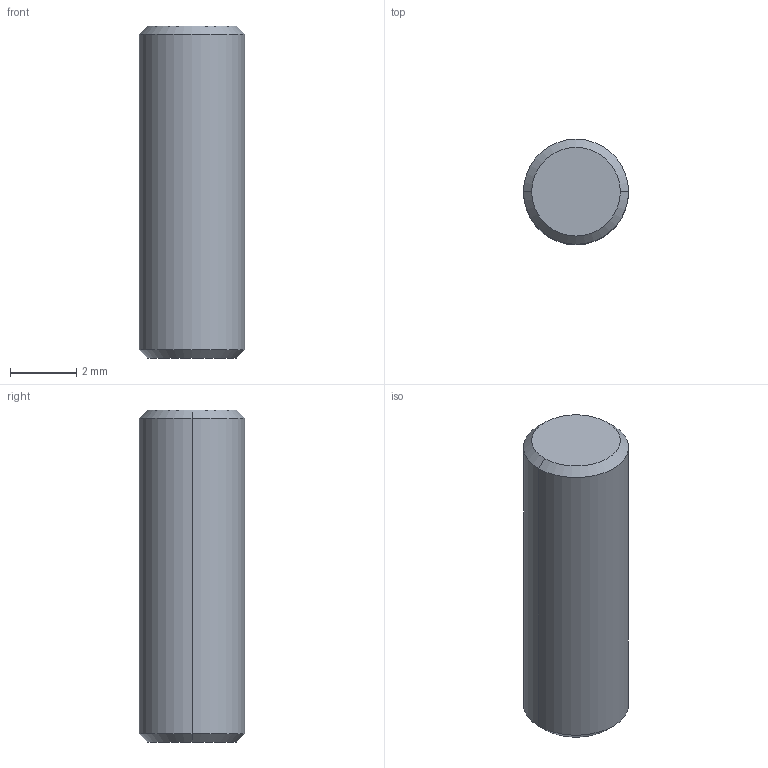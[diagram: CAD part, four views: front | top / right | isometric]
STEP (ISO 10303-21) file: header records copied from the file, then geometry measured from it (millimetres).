
FILE_DESCRIPTION(/* description */ ('VariCAD 2010-3.03 AP-214'),/* implementation_level */ '2;1');
FILE_NAME(/* name */ '0353-84-10',/* time_stamp */ '2011-01-17T18:28:13-07:00',/* author */ (''),/* organization */ (''),/* preprocessor_version */ 'ST-DEVELOPER v12',/* originating_system */ 'VariCAD 2010-3.03; kernel version (20100102)',/* authorisation */ '');
FILE_SCHEMA (('AUTOMOTIVE_DESIGN'));
Length unit declared in the file: millimetre
Products named in the file (1): Part
Bounding box: 3.17 x 3.17 x 10.03 mm (x, y, z)
Volume: 78.8 mm3; surface area: 112.7 mm2
Topology: 1 solids, 1 shells, 8 faces, 14 edges, 8 vertices
Faces by surface type: cone 4, cylinder 2, plane 2
Entity records: 221 total; most frequent: DIRECTION 42, CARTESIAN_POINT 32, ORIENTED_EDGE 28, AXIS2_PLACEMENT_3D 18, EDGE_CURVE 14, ADVANCED_FACE 8, FACE_OUTER_BOUND 8, EDGE_LOOP 8
